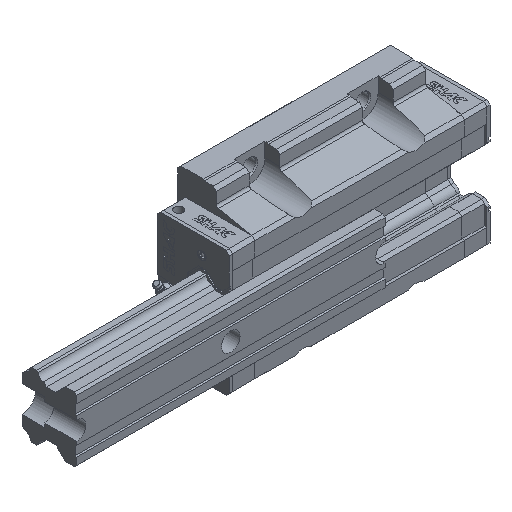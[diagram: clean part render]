
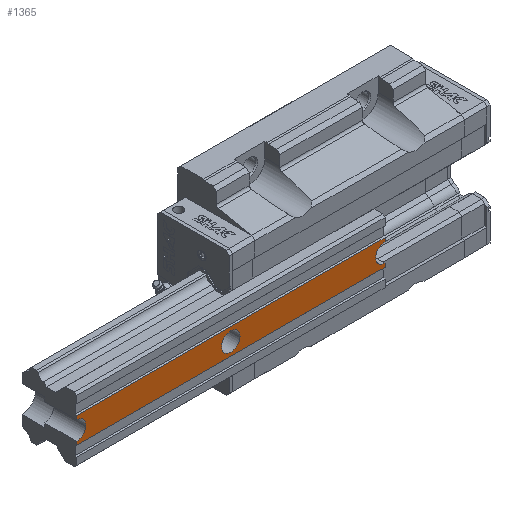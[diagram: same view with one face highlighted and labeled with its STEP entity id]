
A CAD part, isometric view. The second image highlights one B-rep face of the part: STEP entity #1365.
In plain terms, the highlighted planar face has unit normal (0, -1, 0).
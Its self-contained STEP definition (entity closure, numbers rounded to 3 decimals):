
#1365 = ADVANCED_FACE( '', ( #2867, #2868 ), #2869, .F. );
#2867 = FACE_BOUND( '', #4594, .T. );
#2868 = FACE_OUTER_BOUND( '', #4595, .T. );
#2869 = PLANE( '', #4596 );
#4594 = EDGE_LOOP( '', ( #8083 ) );
#4595 = EDGE_LOOP( '', ( #8084, #8085, #8086, #8087, #8088, #8089, #8090, #8091 ) );
#4596 = AXIS2_PLACEMENT_3D( '', #8092, #8093, #8094 );
#8083 = ORIENTED_EDGE( '', *, *, #10388, .F. );
#8084 = ORIENTED_EDGE( '', *, *, #11327, .F. );
#8085 = ORIENTED_EDGE( '', *, *, #11595, .F. );
#8086 = ORIENTED_EDGE( '', *, *, #11596, .F. );
#8087 = ORIENTED_EDGE( '', *, *, #10260, .F. );
#8088 = ORIENTED_EDGE( '', *, *, #11247, .T. );
#8089 = ORIENTED_EDGE( '', *, *, #10606, .T. );
#8090 = ORIENTED_EDGE( '', *, *, #11481, .F. );
#8091 = ORIENTED_EDGE( '', *, *, #11597, .T. );
#8092 = CARTESIAN_POINT( '', ( 150., 0., 29.5 ) );
#8093 = DIRECTION( '', ( 0., 1., 0. ) );
#8094 = DIRECTION( '', ( 0., 0., 1. ) );
#10260 = EDGE_CURVE( '', #12247, #12249, #12250, .T. );
#10388 = EDGE_CURVE( '', #12475, #12475, #12476, .T. );
#10606 = EDGE_CURVE( '', #12815, #12842, #12844, .T. );
#11247 = EDGE_CURVE( '', #12247, #12815, #13869, .T. );
#11327 = EDGE_CURVE( '', #13985, #13981, #13987, .T. );
#11481 = EDGE_CURVE( '', #14202, #12842, #14204, .T. );
#11595 = EDGE_CURVE( '', #14353, #13985, #14354, .T. );
#11596 = EDGE_CURVE( '', #12249, #14353, #14355, .T. );
#11597 = EDGE_CURVE( '', #14202, #13981, #14356, .T. );
#12247 = VERTEX_POINT( '', #15176 );
#12249 = VERTEX_POINT( '', #15179 );
#12250 = LINE( '', #15180, #15181 );
#12475 = VERTEX_POINT( '', #15490 );
#12476 = CIRCLE( '', #15491, 9. );
#12815 = VERTEX_POINT( '', #16005 );
#12842 = VERTEX_POINT( '', #16045 );
#12844 = LINE( '', #16048, #16049 );
#13869 = LINE( '', #17535, #17536 );
#13981 = VERTEX_POINT( '', #17697 );
#13985 = VERTEX_POINT( '', #17703 );
#13987 = LINE( '', #17706, #17707 );
#14202 = VERTEX_POINT( '', #18052 );
#14204 = CIRCLE( '', #18055, 9. );
#14353 = VERTEX_POINT( '', #18292 );
#14354 = LINE( '', #18293, #18294 );
#14355 = CIRCLE( '', #18295, 9. );
#14356 = LINE( '', #18296, #18297 );
#15176 = CARTESIAN_POINT( '', ( 150., 0., 12.5 ) );
#15179 = CARTESIAN_POINT( '', ( 150., 0., 9. ) );
#15180 = CARTESIAN_POINT( '', ( 150., 0., 29.5 ) );
#15181 = VECTOR( '', #19208, 1000. );
#15490 = CARTESIAN_POINT( '', ( 0., 0., -9. ) );
#15491 = AXIS2_PLACEMENT_3D( '', #19347, #19348, #19349 );
#16005 = CARTESIAN_POINT( '', ( -150., 0., 12.5 ) );
#16045 = CARTESIAN_POINT( '', ( -150., 0., 9. ) );
#16048 = CARTESIAN_POINT( '', ( -150., 0., 29.5 ) );
#16049 = VECTOR( '', #19583, 1000. );
#17535 = CARTESIAN_POINT( '', ( 150., 0., 12.5 ) );
#17536 = VECTOR( '', #20267, 1000. );
#17697 = CARTESIAN_POINT( '', ( -150., 0., -12.5 ) );
#17703 = CARTESIAN_POINT( '', ( 150., 0., -12.5 ) );
#17706 = CARTESIAN_POINT( '', ( 150., 0., -12.5 ) );
#17707 = VECTOR( '', #20338, 1000. );
#18052 = CARTESIAN_POINT( '', ( -150., 0., -9. ) );
#18055 = AXIS2_PLACEMENT_3D( '', #20486, #20487, #20488 );
#18292 = CARTESIAN_POINT( '', ( 150., 0., -9. ) );
#18293 = CARTESIAN_POINT( '', ( 150., 0., 29.5 ) );
#18294 = VECTOR( '', #20586, 1000. );
#18295 = AXIS2_PLACEMENT_3D( '', #20587, #20588, #20589 );
#18296 = CARTESIAN_POINT( '', ( -150., 0., 29.5 ) );
#18297 = VECTOR( '', #20590, 1000. );
#19208 = DIRECTION( '', ( 0., 0., -1. ) );
#19347 = CARTESIAN_POINT( '', ( 0., 0., 0. ) );
#19348 = DIRECTION( '', ( 0., -1., 0. ) );
#19349 = DIRECTION( '', ( 0., 0., -1. ) );
#19583 = DIRECTION( '', ( 0., 0., -1. ) );
#20267 = DIRECTION( '', ( -1., 0., 0. ) );
#20338 = DIRECTION( '', ( -1., 0., 0. ) );
#20486 = CARTESIAN_POINT( '', ( -150., 0., 0. ) );
#20487 = DIRECTION( '', ( 0., -1., 0. ) );
#20488 = DIRECTION( '', ( 0., 0., -1. ) );
#20586 = DIRECTION( '', ( 0., 0., -1. ) );
#20587 = CARTESIAN_POINT( '', ( 150., 0., 0. ) );
#20588 = DIRECTION( '', ( 0., -1., 0. ) );
#20589 = DIRECTION( '', ( 0., 0., -1. ) );
#20590 = DIRECTION( '', ( 0., 0., -1. ) );
